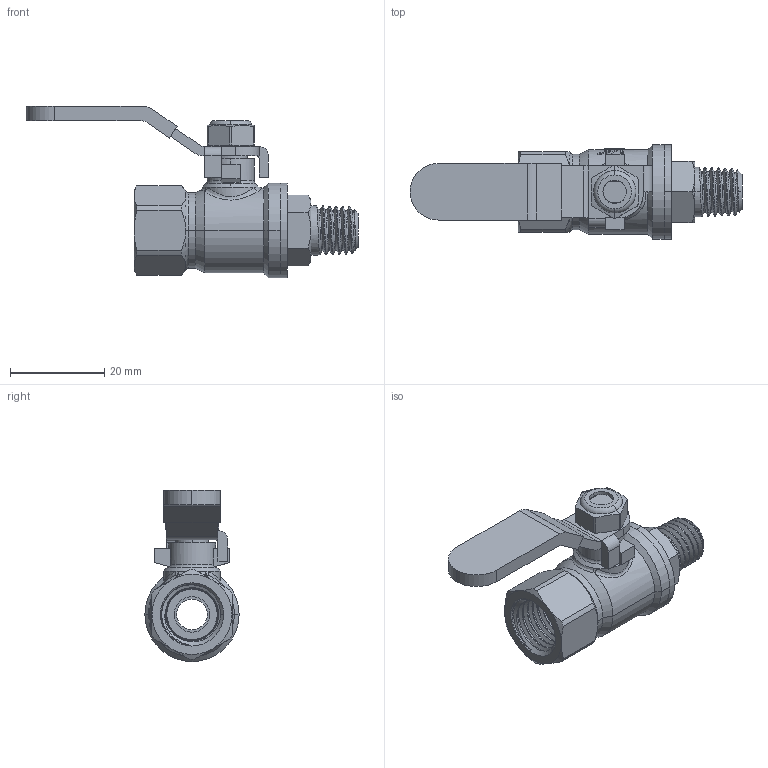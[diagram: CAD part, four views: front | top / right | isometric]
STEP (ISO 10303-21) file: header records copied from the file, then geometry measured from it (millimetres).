
FILE_DESCRIPTION(('Open CASCADE Model'),'2;1');
FILE_NAME('Open CASCADE Shape Model','2021-12-15T12:08:56',('Author'),( 'Open CASCADE'),'Open CASCADE STEP processor 7.3','Open CASCADE 7.3' ,'Unknown');
FILE_SCHEMA(('AUTOMOTIVE_DESIGN { 1 0 10303 214 1 1 1 1 }'));
Length unit declared in the file: millimetre
Products named in the file (11): Open CASCADE STEP translator 7.3 1; Open CASCADE STEP translator 7.3 1.1; Open CASCADE STEP translator 7.3 1.2; Open CASCADE STEP translator 7.3 1.3; Open CASCADE STEP translator 7.3 1.4; Open CASCADE STEP translator 7.3 1.5; Open CASCADE STEP translator 7.3 1.6; Open CASCADE STEP translator 7.3 1.7; Open CASCADE STEP translator 7.3 1.8; Open CASCADE STEP translator 7.3 1.9; Open CASCADE STEP translator 7.3 1.10
Assembly tree (10 placements, depth 2):
  Open CASCADE STEP translator 7.3 1
    Open CASCADE STEP translator 7.3 1.1
    Open CASCADE STEP translator 7.3 1.2
    Open CASCADE STEP translator 7.3 1.3
    Open CASCADE STEP translator 7.3 1.4
    Open CASCADE STEP translator 7.3 1.5
    Open CASCADE STEP translator 7.3 1.6
    Open CASCADE STEP translator 7.3 1.7
    Open CASCADE STEP translator 7.3 1.8
    Open CASCADE STEP translator 7.3 1.9
    Open CASCADE STEP translator 7.3 1.10
Bounding box: 70.43 x 20 x 36.3 mm (x, y, z)
Volume: 9159.5 mm3; surface area: 10513.1 mm2
Topology: 10 solids, 10 shells, 531 faces, 1374 edges, 886 vertices
Faces by surface type: cylinder 141, plane 137, bspline 131, cone 80, torus 34, sphere 6, revolution 2
Entity records: 93916 total; most frequent: CARTESIAN_POINT 69999, DIRECTION 3338, ORIENTED_EDGE 2744, PCURVE 2744, DEFINITIONAL_REPRESENTATION 2744, LINE 1716, VECTOR 1716, B_SPLINE_CURVE_WITH_KNOTS 1699
